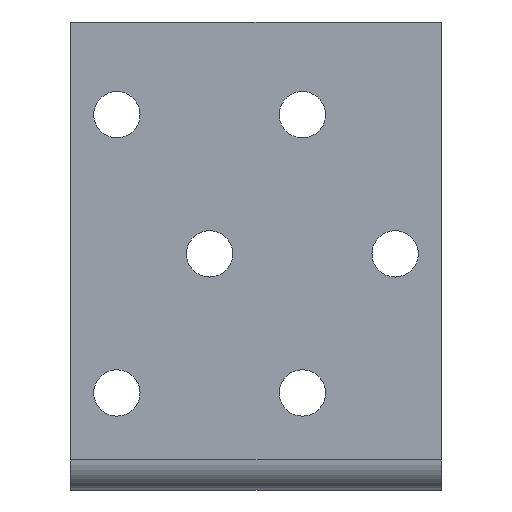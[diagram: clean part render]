
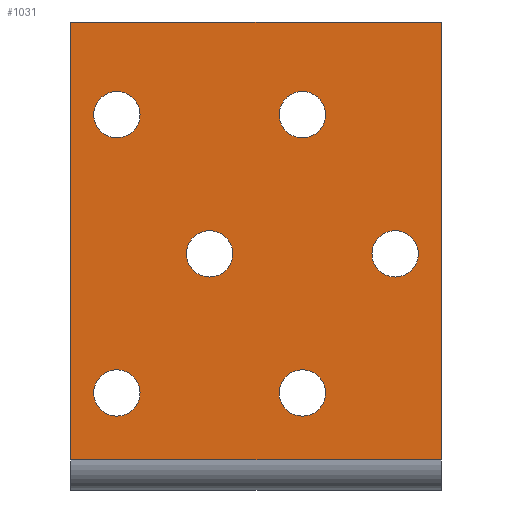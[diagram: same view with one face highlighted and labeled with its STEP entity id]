
A CAD part, front view. The second image highlights one B-rep face of the part: STEP entity #1031.
In plain terms, the highlighted planar face has unit normal (0, -1, 0).
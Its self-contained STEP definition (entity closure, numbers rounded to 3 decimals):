
#9 = ORIENTED_EDGE ( 'NONE', *, *, #1271, .T. ) ;
#30 = AXIS2_PLACEMENT_3D ( 'NONE', #577, #679, #245 ) ;
#69 = EDGE_LOOP ( 'NONE', ( #723, #994 ) ) ;
#71 = AXIS2_PLACEMENT_3D ( 'NONE', #737, #836, #313 ) ;
#81 = CARTESIAN_POINT ( 'NONE',  ( 0., -2.5, 0. ) ) ;
#82 = VERTEX_POINT ( 'NONE', #469 ) ;
#84 = CARTESIAN_POINT ( 'NONE',  ( 15., -2.5, -25. ) ) ;
#93 = DIRECTION ( 'NONE',  ( 0., 0., -1. ) ) ;
#100 = AXIS2_PLACEMENT_3D ( 'NONE', #500, #169, #798 ) ;
#112 = EDGE_CURVE ( 'NONE', #651, #1207, #185, .T. ) ;
#119 = VECTOR ( 'NONE', #353, 1000. ) ;
#132 = CARTESIAN_POINT ( 'NONE',  ( 15., -2.5, -27.5 ) ) ;
#138 = FACE_BOUND ( 'NONE', #1135, .T. ) ;
#141 = AXIS2_PLACEMENT_3D ( 'NONE', #291, #1248, #545 ) ;
#158 = DIRECTION ( 'NONE',  ( 0., 1., 0. ) ) ;
#160 = ORIENTED_EDGE ( 'NONE', *, *, #1315, .F. ) ;
#169 = DIRECTION ( 'NONE',  ( 0., 1., 0. ) ) ;
#170 = FACE_BOUND ( 'NONE', #1277, .T. ) ;
#185 = CIRCLE ( 'NONE', #30, 2.5 ) ;
#187 = CARTESIAN_POINT ( 'NONE',  ( 40., -2.5, 0. ) ) ;
#201 = CIRCLE ( 'NONE', #526, 2.5 ) ;
#210 = AXIS2_PLACEMENT_3D ( 'NONE', #970, #780, #693 ) ;
#212 = EDGE_CURVE ( 'NONE', #1289, #996, #201, .T. ) ;
#224 = CIRCLE ( 'NONE', #1321, 2.5 ) ;
#245 = DIRECTION ( 'NONE',  ( 0., 0., 1. ) ) ;
#246 = DIRECTION ( 'NONE',  ( 0., 0., 1. ) ) ;
#251 = ORIENTED_EDGE ( 'NONE', *, *, #1078, .T. ) ;
#256 = DIRECTION ( 'NONE',  ( 0., 0., 1. ) ) ;
#267 = CARTESIAN_POINT ( 'NONE',  ( 5., -2.5, -10. ) ) ;
#270 = ORIENTED_EDGE ( 'NONE', *, *, #1111, .T. ) ;
#272 = AXIS2_PLACEMENT_3D ( 'NONE', #1291, #158, #246 ) ;
#273 = CARTESIAN_POINT ( 'NONE',  ( 15., -2.5, -22.5 ) ) ;
#278 = LINE ( 'NONE', #366, #119 ) ;
#285 = ORIENTED_EDGE ( 'NONE', *, *, #711, .T. ) ;
#291 = CARTESIAN_POINT ( 'NONE',  ( 0., -2.5, 0. ) ) ;
#305 = VERTEX_POINT ( 'NONE', #1011 ) ;
#313 = DIRECTION ( 'NONE',  ( 0., 0., 1. ) ) ;
#314 = LINE ( 'NONE', #187, #747 ) ;
#316 = FACE_BOUND ( 'NONE', #879, .T. ) ;
#324 = CARTESIAN_POINT ( 'NONE',  ( 40., -2.5, -47.225 ) ) ;
#325 = ORIENTED_EDGE ( 'NONE', *, *, #1283, .T. ) ;
#334 = FACE_OUTER_BOUND ( 'NONE', #1276, .T. ) ;
#335 = AXIS2_PLACEMENT_3D ( 'NONE', #400, #620, #508 ) ;
#352 = ORIENTED_EDGE ( 'NONE', *, *, #212, .T. ) ;
#353 = DIRECTION ( 'NONE',  ( 1., 0., 0. ) ) ;
#359 = CARTESIAN_POINT ( 'NONE',  ( 0., -2.5, 0. ) ) ;
#366 = CARTESIAN_POINT ( 'NONE',  ( 0., -2.5, -47.225 ) ) ;
#382 = CARTESIAN_POINT ( 'NONE',  ( 35., -2.5, -22.5 ) ) ;
#400 = CARTESIAN_POINT ( 'NONE',  ( 25., -2.5, -10. ) ) ;
#401 = DIRECTION ( 'NONE',  ( 0., 1., 0. ) ) ;
#416 = PLANE ( 'NONE',  #141 ) ;
#419 = CARTESIAN_POINT ( 'NONE',  ( 35., -2.5, -27.5 ) ) ;
#431 = DIRECTION ( 'NONE',  ( 0., 0., 1. ) ) ;
#439 = VERTEX_POINT ( 'NONE', #725 ) ;
#446 = ORIENTED_EDGE ( 'NONE', *, *, #811, .T. ) ;
#449 = DIRECTION ( 'NONE',  ( 0., 1., 0. ) ) ;
#459 = CIRCLE ( 'NONE', #1045, 2.5 ) ;
#468 = ORIENTED_EDGE ( 'NONE', *, *, #1019, .T. ) ;
#469 = CARTESIAN_POINT ( 'NONE',  ( 25., -2.5, -42.5 ) ) ;
#497 = CARTESIAN_POINT ( 'NONE',  ( 5., -2.5, -7.5 ) ) ;
#500 = CARTESIAN_POINT ( 'NONE',  ( 15., -2.5, -25. ) ) ;
#508 = DIRECTION ( 'NONE',  ( 0., 0., 1. ) ) ;
#513 = FACE_BOUND ( 'NONE', #531, .T. ) ;
#526 = AXIS2_PLACEMENT_3D ( 'NONE', #267, #401, #1200 ) ;
#531 = EDGE_LOOP ( 'NONE', ( #446, #468 ) ) ;
#543 = EDGE_CURVE ( 'NONE', #1147, #305, #890, .T. ) ;
#545 = DIRECTION ( 'NONE',  ( 0., 0., -1. ) ) ;
#562 = VERTEX_POINT ( 'NONE', #273 ) ;
#574 = VECTOR ( 'NONE', #256, 1000. ) ;
#577 = CARTESIAN_POINT ( 'NONE',  ( 5., -2.5, -40. ) ) ;
#593 = EDGE_CURVE ( 'NONE', #439, #832, #903, .T. ) ;
#606 = CIRCLE ( 'NONE', #71, 2.5 ) ;
#610 = DIRECTION ( 'NONE',  ( 0., 0., 1. ) ) ;
#615 = VERTEX_POINT ( 'NONE', #919 ) ;
#620 = DIRECTION ( 'NONE',  ( 0., 1., 0. ) ) ;
#626 = ORIENTED_EDGE ( 'NONE', *, *, #1043, .F. ) ;
#641 = VECTOR ( 'NONE', #913, 1000. ) ;
#651 = VERTEX_POINT ( 'NONE', #1250 ) ;
#653 = CIRCLE ( 'NONE', #210, 2.5 ) ;
#656 = CIRCLE ( 'NONE', #959, 2.5 ) ;
#679 = DIRECTION ( 'NONE',  ( 0., 1., 0. ) ) ;
#689 = VERTEX_POINT ( 'NONE', #743 ) ;
#693 = DIRECTION ( 'NONE',  ( 0., 0., 1. ) ) ;
#694 = VERTEX_POINT ( 'NONE', #419 ) ;
#701 = ORIENTED_EDGE ( 'NONE', *, *, #112, .T. ) ;
#707 = AXIS2_PLACEMENT_3D ( 'NONE', #954, #449, #960 ) ;
#711 = EDGE_CURVE ( 'NONE', #996, #1289, #656, .T. ) ;
#722 = DIRECTION ( 'NONE',  ( 0., 0., 1. ) ) ;
#723 = ORIENTED_EDGE ( 'NONE', *, *, #961, .T. ) ;
#725 = CARTESIAN_POINT ( 'NONE',  ( 0., -2.5, 0. ) ) ;
#727 = VERTEX_POINT ( 'NONE', #324 ) ;
#737 = CARTESIAN_POINT ( 'NONE',  ( 25., -2.5, -40. ) ) ;
#743 = CARTESIAN_POINT ( 'NONE',  ( 0., -2.5, -47.225 ) ) ;
#747 = VECTOR ( 'NONE', #93, 1000. ) ;
#756 = CARTESIAN_POINT ( 'NONE',  ( 40., -2.5, 0. ) ) ;
#758 = ORIENTED_EDGE ( 'NONE', *, *, #593, .F. ) ;
#780 = DIRECTION ( 'NONE',  ( 0., 1., 0. ) ) ;
#798 = DIRECTION ( 'NONE',  ( 0., 0., 1. ) ) ;
#799 = VERTEX_POINT ( 'NONE', #132 ) ;
#806 = CIRCLE ( 'NONE', #979, 2.5 ) ;
#811 = EDGE_CURVE ( 'NONE', #615, #82, #1028, .T. ) ;
#825 = CARTESIAN_POINT ( 'NONE',  ( 25., -2.5, -10. ) ) ;
#832 = VERTEX_POINT ( 'NONE', #756 ) ;
#836 = DIRECTION ( 'NONE',  ( 0., 1., 0. ) ) ;
#842 = LINE ( 'NONE', #359, #574 ) ;
#844 = DIRECTION ( 'NONE',  ( 0., 1., 0. ) ) ;
#876 = CARTESIAN_POINT ( 'NONE',  ( 25., -2.5, -12.5 ) ) ;
#879 = EDGE_LOOP ( 'NONE', ( #1059, #701 ) ) ;
#890 = CIRCLE ( 'NONE', #335, 2.5 ) ;
#898 = CARTESIAN_POINT ( 'NONE',  ( 5., -2.5, -37.5 ) ) ;
#903 = LINE ( 'NONE', #81, #641 ) ;
#913 = DIRECTION ( 'NONE',  ( 1., 0., 0. ) ) ;
#919 = CARTESIAN_POINT ( 'NONE',  ( 25., -2.5, -37.5 ) ) ;
#927 = DIRECTION ( 'NONE',  ( 0., 1., 0. ) ) ;
#928 = EDGE_LOOP ( 'NONE', ( #285, #352 ) ) ;
#936 = ORIENTED_EDGE ( 'NONE', *, *, #543, .T. ) ;
#945 = CARTESIAN_POINT ( 'NONE',  ( 5., -2.5, -10. ) ) ;
#954 = CARTESIAN_POINT ( 'NONE',  ( 25., -2.5, -40. ) ) ;
#959 = AXIS2_PLACEMENT_3D ( 'NONE', #945, #844, #431 ) ;
#960 = DIRECTION ( 'NONE',  ( 0., 0., 1. ) ) ;
#961 = EDGE_CURVE ( 'NONE', #562, #799, #1008, .T. ) ;
#970 = CARTESIAN_POINT ( 'NONE',  ( 35., -2.5, -25. ) ) ;
#979 = AXIS2_PLACEMENT_3D ( 'NONE', #1238, #927, #1129 ) ;
#994 = ORIENTED_EDGE ( 'NONE', *, *, #1180, .T. ) ;
#996 = VERTEX_POINT ( 'NONE', #497 ) ;
#1008 = CIRCLE ( 'NONE', #100, 2.5 ) ;
#1011 = CARTESIAN_POINT ( 'NONE',  ( 25., -2.5, -7.5 ) ) ;
#1019 = EDGE_CURVE ( 'NONE', #82, #615, #606, .T. ) ;
#1027 = CARTESIAN_POINT ( 'NONE',  ( 5., -2.5, -12.5 ) ) ;
#1028 = CIRCLE ( 'NONE', #707, 2.5 ) ;
#1031 = ADVANCED_FACE ( 'NONE', ( #138, #1221, #170, #1256, #513, #316, #334 ), #416, .T. ) ;
#1043 = EDGE_CURVE ( 'NONE', #689, #439, #842, .T. ) ;
#1045 = AXIS2_PLACEMENT_3D ( 'NONE', #84, #1090, #610 ) ;
#1059 = ORIENTED_EDGE ( 'NONE', *, *, #1091, .T. ) ;
#1078 = EDGE_CURVE ( 'NONE', #1175, #694, #653, .T. ) ;
#1090 = DIRECTION ( 'NONE',  ( 0., 1., 0. ) ) ;
#1091 = EDGE_CURVE ( 'NONE', #1207, #651, #1149, .T. ) ;
#1111 = EDGE_CURVE ( 'NONE', #689, #727, #278, .T. ) ;
#1129 = DIRECTION ( 'NONE',  ( 0., 0., 1. ) ) ;
#1132 = DIRECTION ( 'NONE',  ( 0., 1., 0. ) ) ;
#1135 = EDGE_LOOP ( 'NONE', ( #251, #9 ) ) ;
#1147 = VERTEX_POINT ( 'NONE', #876 ) ;
#1149 = CIRCLE ( 'NONE', #272, 2.5 ) ;
#1175 = VERTEX_POINT ( 'NONE', #382 ) ;
#1180 = EDGE_CURVE ( 'NONE', #799, #562, #459, .T. ) ;
#1200 = DIRECTION ( 'NONE',  ( 0., 0., 1. ) ) ;
#1207 = VERTEX_POINT ( 'NONE', #898 ) ;
#1221 = FACE_BOUND ( 'NONE', #69, .T. ) ;
#1238 = CARTESIAN_POINT ( 'NONE',  ( 35., -2.5, -25. ) ) ;
#1248 = DIRECTION ( 'NONE',  ( 0., -1., 0. ) ) ;
#1250 = CARTESIAN_POINT ( 'NONE',  ( 5., -2.5, -42.5 ) ) ;
#1256 = FACE_BOUND ( 'NONE', #928, .T. ) ;
#1271 = EDGE_CURVE ( 'NONE', #694, #1175, #806, .T. ) ;
#1276 = EDGE_LOOP ( 'NONE', ( #626, #270, #160, #758 ) ) ;
#1277 = EDGE_LOOP ( 'NONE', ( #325, #936 ) ) ;
#1283 = EDGE_CURVE ( 'NONE', #305, #1147, #224, .T. ) ;
#1289 = VERTEX_POINT ( 'NONE', #1027 ) ;
#1291 = CARTESIAN_POINT ( 'NONE',  ( 5., -2.5, -40. ) ) ;
#1315 = EDGE_CURVE ( 'NONE', #832, #727, #314, .T. ) ;
#1321 = AXIS2_PLACEMENT_3D ( 'NONE', #825, #1132, #722 ) ;
